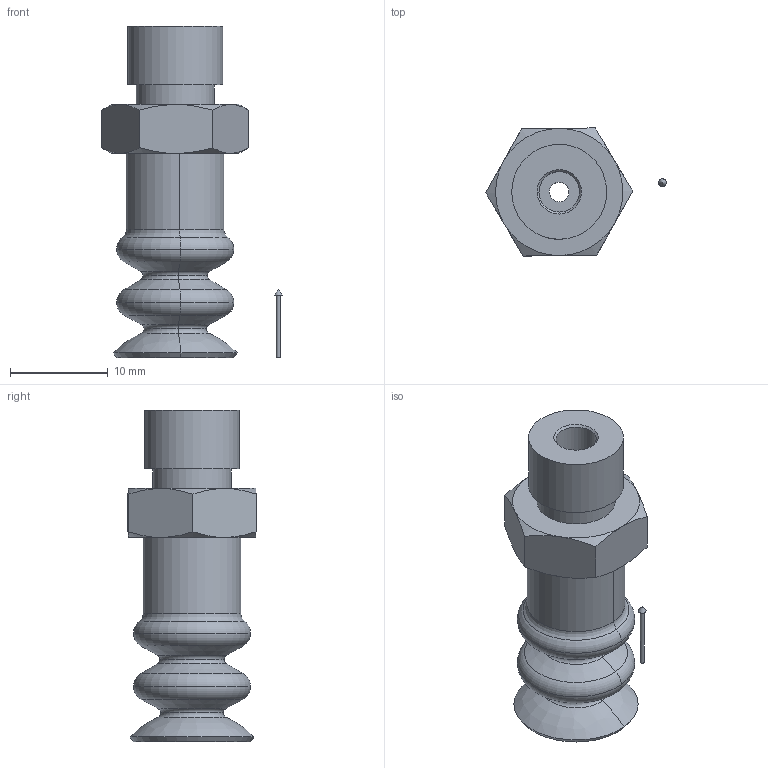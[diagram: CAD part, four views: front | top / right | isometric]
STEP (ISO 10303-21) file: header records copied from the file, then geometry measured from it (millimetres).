
FILE_DESCRIPTION(('STEP AP214'),'1');
FILE_NAME('KIT.08.32.D12.9.stp','2019-05-28T06:55:44',(' '),(' '),'Spatial InterOp 3D',' ',' ');
FILE_SCHEMA(('AUTOMOTIVE_DESIGN { 1 0 10303 214 1 1 1 1 }'));
Length unit declared in the file: millimetre
Products named in the file (5): KIT.08.32.D12.9; CA.08.09.009; CA.08.32.D12
Assembly tree (4 placements, depth 3):
  KIT.08.32.D12.9
    CA.08.09.009
    (unnamed)
      CA.08.32.D12
      CA.08.32.D12
Bounding box: 18.44 x 13.09 x 33.88 mm (x, y, z)
Volume: 2559.3 mm3; surface area: 2416.2 mm2
Topology: 3 solids, 3 shells, 81 faces, 161 edges, 94 vertices
Faces by surface type: cone 27, plane 20, torus 18, cylinder 14, bspline 2
Full cylindrical faces by diameter (mm): 0.4 x1, 2 x1, 4.134 x1, 4.5 x1, 8 x1, 9.7 x1
Entity records: 2836 total; most frequent: CARTESIAN_POINT 448, DIRECTION 388, ORIENTED_EDGE 290, AXIS2_PLACEMENT_3D 182, EDGE_CURVE 145, EDGE_LOOP 104, CIRCLE 97, VERTEX_POINT 90
